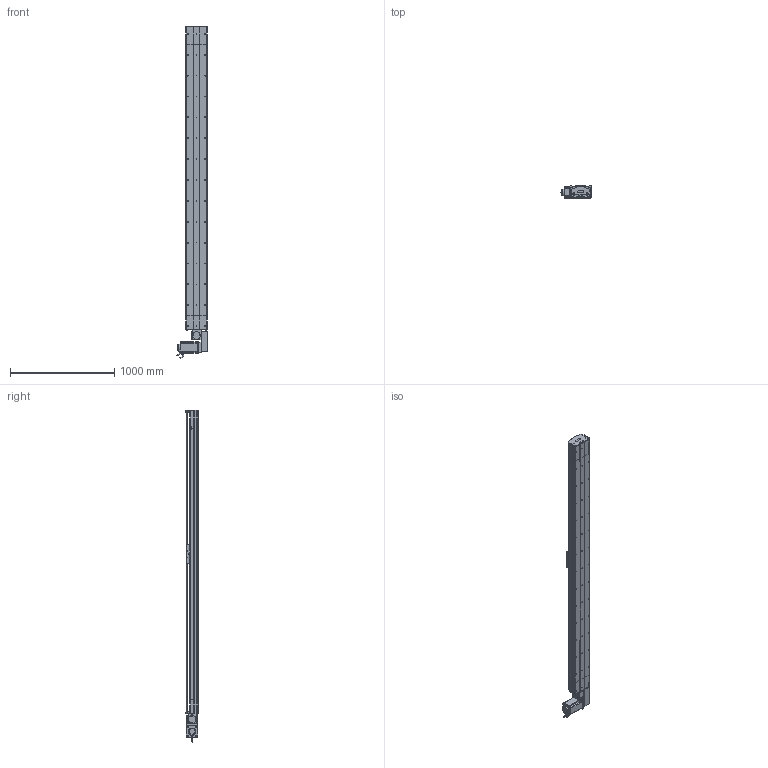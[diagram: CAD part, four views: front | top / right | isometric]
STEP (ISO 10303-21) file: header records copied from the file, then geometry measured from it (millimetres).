
FILE_DESCRIPTION (( 'STEP AP214' ), '1' );
FILE_NAME ('D20 TBH LH S2600.STEP', '2010-07-01T08:14:31', ( 'Conseil Régional Haute-Normandie' ), ( 'Conseil Régional Haute-Normandie' ), 'SwSTEP 2.0', 'SolidWorks 2010', '' );
FILE_SCHEMA (( 'AUTOMOTIVE_DESIGN' ));
Length unit declared in the file: millimetre
Products named in the file (40): rail + couroie  D20 S2600; vis M5 L5_Default; Renvoi LH D20_Default; plaque de  bout head D20B LH_Default; corpl head D20_Default; rail head D20; cache arbre D20_Default; couroie_Default; cache D20_Default; poulie head D20_Default; couvercle head D20_Default; head LH_Default; avant 110BLDC170A-630x; Moteur motionking 110BLDC170A-640x; clavette; Conecteur_Default; Conecteur2_Default; codeur 110BLDC170A-630x; corps 110BLDC170A-630x; Plaque racord D20LH_Default; vis M5 L70_Default; vis M5 L25_Default; vis M5 L12_Default; tete d''axe poulie D20B; couvercle tail D20_Default; rail tail D20; vis M5 L8 90°_Default; Couroie tail D20_Default; corpl tail D20_Default; tail D20_Default; vis M8 L12_Default; plaque de  bout tail D20_Default; poulie tail D20_Default; D20 TBH LH S2600; couvercle D20 S2600_Default; corp D20 S2600_Default; Course B L2600_Default; guide D20B; Chariot D20B; chariot D20B_Default
Assembly tree (71 placements, depth 4):
  D20 TBH LH S2600
    Course B L2600_Default
      rail + couroie  D20 S2600
      corp D20 S2600_Default
      couvercle D20 S2600_Default
    chariot D20B_Default
      vis M5 L12_Default  x4
      Chariot D20B
      guide D20B  x2
    head LH_Default
      vis M5 L70_Default  x4
      vis M5 L12_Default  x10
      Moteur motionking 110BLDC170A-640x
        codeur 110BLDC170A-630x
        Conecteur_Default
        corps 110BLDC170A-630x
        avant 110BLDC170A-630x
        Conecteur2_Default
        clavette
      cache arbre D20_Default
      poulie head D20_Default
      cache D20_Default  x2
      vis M8 L12_Default  x4
      rail head D20
      Plaque racord D20LH_Default
      vis M5 L5_Default  x4
      plaque de  bout head D20B LH_Default
      couvercle head D20_Default
      corpl head D20_Default
      vis M5 L25_Default  x2
      couroie_Default
      Renvoi LH D20_Default
    tail D20_Default
      vis M5 L8 90°_Default  x2
      Couroie tail D20_Default
      tete d''axe poulie D20B
      vis M5 L12_Default  x4
      vis M5 L25_Default  x2
      plaque de  bout tail D20_Default
      couvercle tail D20_Default
      corpl tail D20_Default
      rail tail D20
      poulie tail D20_Default
Bounding box: 304.2 x 115.7 x 3180 mm (x, y, z)
Volume: 24377963.2 mm3; surface area: 5966271.6 mm2
Topology: 95 solids, 95 shells, 2825 faces, 7221 edges, 4665 vertices
Faces by surface type: plane 1634, cylinder 867, bspline 136, cone 99, torus 89
Entity records: 90664 total; most frequent: CARTESIAN_POINT 29385, ORIENTED_EDGE 11098, DIRECTION 10440, EDGE_CURVE 5549, VERTEX_POINT 3651, VECTOR 3540, LINE 3540, AXIS2_PLACEMENT_3D 3450
